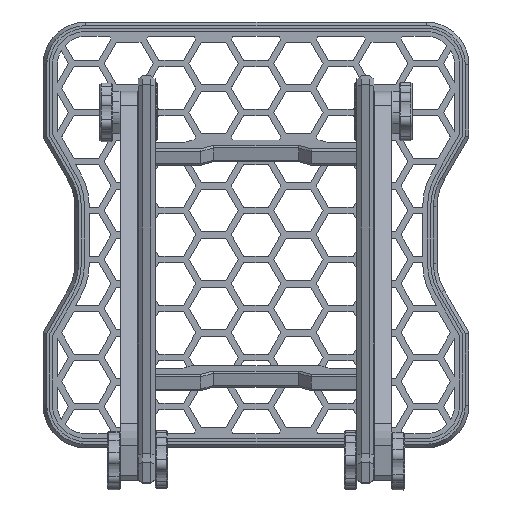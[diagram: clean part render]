
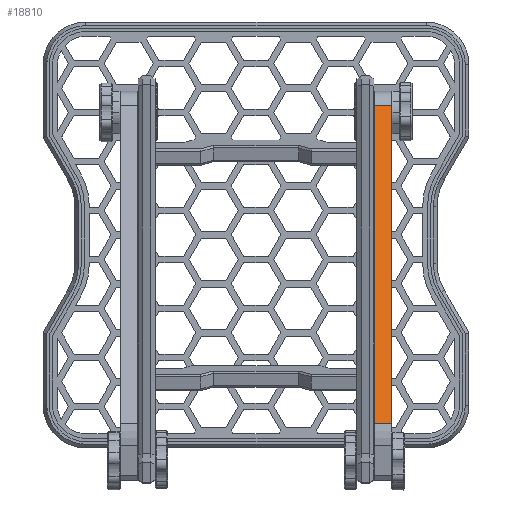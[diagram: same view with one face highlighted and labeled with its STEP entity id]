
A CAD part, top view. The second image highlights one B-rep face of the part: STEP entity #18810.
In plain terms, the highlighted planar face has unit normal (0, 0.319, 0.948) as drawn and (0, -1, 0) by its records, which use the part's own axes.
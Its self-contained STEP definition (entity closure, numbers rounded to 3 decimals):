
#6324 = DIRECTION ( 'NONE',  ( 1., 0., 0. ) ) ;
#7137 = EDGE_CURVE ( 'NONE', #68688, #25313, #69791, .T. ) ;
#7869 = FACE_OUTER_BOUND ( 'NONE', #83338, .T. ) ;
#11176 = DIRECTION ( 'NONE',  ( 0., 0., -1. ) ) ;
#17465 = EDGE_CURVE ( 'NONE', #30683, #25013, #75674, .T. ) ;
#18810 = ADVANCED_FACE ( 'NONE', ( #7869 ), #23668, .F. ) ;
#18818 = LINE ( 'NONE', #49946, #86722 ) ;
#23359 = CARTESIAN_POINT ( 'NONE',  ( 0., -10., 0. ) ) ;
#23668 = PLANE ( 'NONE',  #35723 ) ;
#25013 = VERTEX_POINT ( 'NONE', #56670 ) ;
#25313 = VERTEX_POINT ( 'NONE', #37200 ) ;
#30683 = VERTEX_POINT ( 'NONE', #38002 ) ;
#34902 = EDGE_CURVE ( 'NONE', #30683, #68688, #18818, .T. ) ;
#35723 = AXIS2_PLACEMENT_3D ( 'NONE', #93030, #79719, #63935 ) ;
#37200 = CARTESIAN_POINT ( 'NONE',  ( 157.641, -10., 0. ) ) ;
#38002 = CARTESIAN_POINT ( 'NONE',  ( 0., -10., 8. ) ) ;
#38197 = CARTESIAN_POINT ( 'NONE',  ( 0., -10., 0. ) ) ;
#49756 = ORIENTED_EDGE ( 'NONE', *, *, #7137, .T. ) ;
#49946 = CARTESIAN_POINT ( 'NONE',  ( 0., -10., 8. ) ) ;
#51189 = ORIENTED_EDGE ( 'NONE', *, *, #70066, .T. ) ;
#54325 = LINE ( 'NONE', #92538, #70462 ) ;
#56670 = CARTESIAN_POINT ( 'NONE',  ( 157.641, -10., 8. ) ) ;
#63589 = ORIENTED_EDGE ( 'NONE', *, *, #17465, .F. ) ;
#63691 = VECTOR ( 'NONE', #67771, 1000. ) ;
#63935 = DIRECTION ( 'NONE',  ( 0., 0., 1. ) ) ;
#67021 = CARTESIAN_POINT ( 'NONE',  ( 0., -10., 8. ) ) ;
#67771 = DIRECTION ( 'NONE',  ( 1., 0., 0. ) ) ;
#68688 = VERTEX_POINT ( 'NONE', #23359 ) ;
#69791 = LINE ( 'NONE', #38197, #63691 ) ;
#70066 = EDGE_CURVE ( 'NONE', #25313, #25013, #54325, .T. ) ;
#70462 = VECTOR ( 'NONE', #100697, 1000. ) ;
#75674 = LINE ( 'NONE', #67021, #100587 ) ;
#79719 = DIRECTION ( 'NONE',  ( 0., 1., 0. ) ) ;
#83338 = EDGE_LOOP ( 'NONE', ( #49756, #51189, #63589, #84372 ) ) ;
#84372 = ORIENTED_EDGE ( 'NONE', *, *, #34902, .T. ) ;
#86722 = VECTOR ( 'NONE', #11176, 1000. ) ;
#92538 = CARTESIAN_POINT ( 'NONE',  ( 157.641, -10., 8. ) ) ;
#93030 = CARTESIAN_POINT ( 'NONE',  ( 0., -10., 8. ) ) ;
#100587 = VECTOR ( 'NONE', #6324, 1000. ) ;
#100697 = DIRECTION ( 'NONE',  ( 0., 0., 1. ) ) ;
